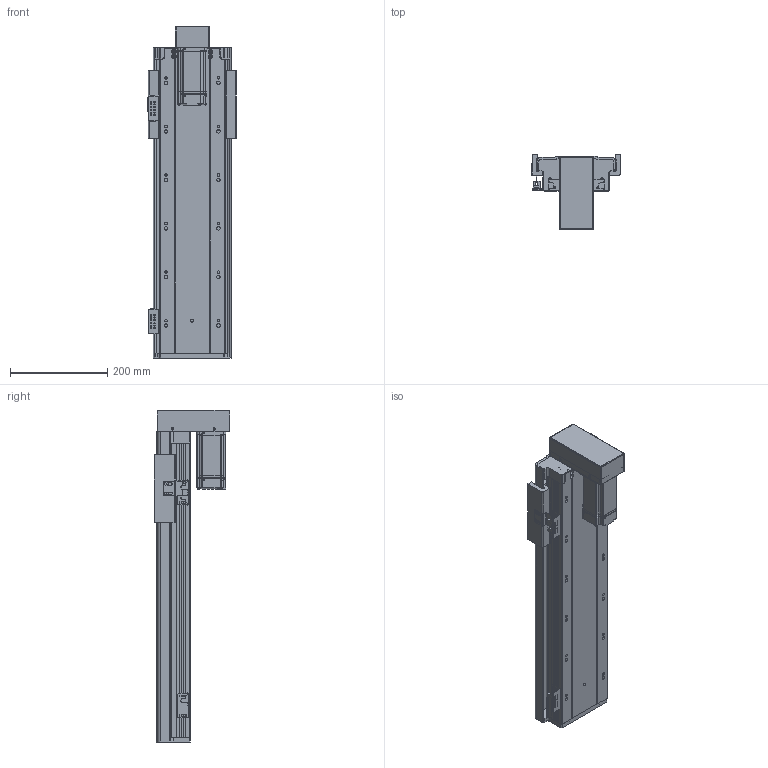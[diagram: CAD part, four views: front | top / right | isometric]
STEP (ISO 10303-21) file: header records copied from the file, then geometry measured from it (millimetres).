
FILE_DESCRIPTION (( 'STEP AP203' ), '1' );
FILE_NAME ('RY140FB-L2010-300-BK.SLDASM_400.step', '2021-02-23T02:28:42', ( '盈信电脑' ), ( '东莞市道滘镇水果街19号' ), 'SwSTEP 2.0', 'SolidWorks 2012', '' );
FILE_SCHEMA (( 'CONFIG_CONTROL_DESIGN' ));
Length unit declared in the file: millimetre
Products named in the file (17): RY140FB-覜茼え; RY140FB-L2010-300-BK.SLDASM_400; 覜茼ん674; RY140-674嫖萇耀輸; RY140直线电机感应器674光电安装座; RY140FB-300蛌殏奻裔啣-BK_400; RY140狟殏萇儂欶; RY140FB-20佪裝臏賑輸; RY140FB-狟殏萇儂假蚾啣; RY140FB-转折电机端支撑座(7002); 侂狟400W侜督萇儂; 15; RY140FB-300蛌殏倰第菁釱-BK_400; 滅袉蝶18-10; RY140FB-綴裔啣; 滅袉蝶18-24
Assembly tree (20 placements, depth 3):
  RY140FB-L2010-300-BK.SLDASM_400
    RY140FB-300蛌殏倰第菁釱-BK_400
    RY140FB-綴裔啣
    滅袉蝶18-24  x2
    滅袉蝶18-10
    RY140FB-转折电机端支撑座(7002)
    侂狟400W侜督萇儂
      15
    RY140狟殏萇儂欶
    RY140FB-狟殏萇儂假蚾啣
    RY140FB-20佪裝臏賑輸
    RY140FB-300蛌殏奻裔啣-BK_400
    RY140-674嫖萇耀輸
      覜茼ん674  x2
      RY140直线电机感应器674光电安装座
    RY140-674嫖萇耀輸
      RY140直线电机感应器674光电安装座
      覜茼ん674
    RY140FB-覜茼え
Bounding box: 183 x 156 x 684 mm (x, y, z)
Volume: 3043513.3 mm3; surface area: 970019.3 mm2
Topology: 17 solids, 17 shells, 1694 faces, 4621 edges, 2945 vertices
Faces by surface type: cylinder 797, plane 719, cone 150, bspline 28
Entity records: 50743 total; most frequent: CARTESIAN_POINT 10127, DIRECTION 8238, ORIENTED_EDGE 7990, EDGE_CURVE 3995, AXIS2_PLACEMENT_3D 2956, VERTEX_POINT 2613, LINE 2326, VECTOR 2326
